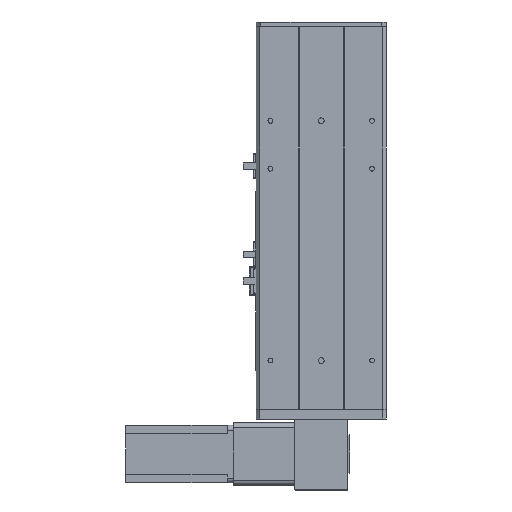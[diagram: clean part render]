
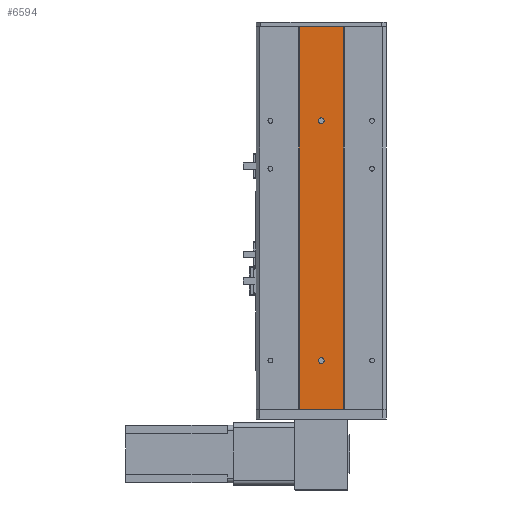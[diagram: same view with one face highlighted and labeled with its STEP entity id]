
A CAD part, front view. The second image highlights one B-rep face of the part: STEP entity #6594.
In plain terms, the highlighted planar face has unit normal (0, -1, 0).
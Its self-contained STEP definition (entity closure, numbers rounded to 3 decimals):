
#539 = CIRCLE ( 'NONE', #9550, 3. ) ;
#773 = DIRECTION ( 'NONE',  ( 0., 1., 0. ) ) ;
#1280 = CARTESIAN_POINT ( 'NONE',  ( 68., -8.6, -95. ) ) ;
#1430 = DIRECTION ( 'NONE',  ( -1., 0., 0. ) ) ;
#2281 = CARTESIAN_POINT ( 'NONE',  ( 68., -8.6, -345. ) ) ;
#2908 = ORIENTED_EDGE ( 'NONE', *, *, #23203, .F. ) ;
#3518 = FACE_BOUND ( 'NONE', #24269, .T. ) ;
#3676 = VERTEX_POINT ( 'NONE', #20282 ) ;
#4660 = CARTESIAN_POINT ( 'NONE',  ( 45., -8.6, -399. ) ) ;
#4671 = LINE ( 'NONE', #15717, #14445 ) ;
#4829 = CARTESIAN_POINT ( 'NONE',  ( 45., -8.6, -399. ) ) ;
#5067 = EDGE_CURVE ( 'NONE', #22677, #19562, #13942, .T. ) ;
#5391 = CARTESIAN_POINT ( 'NONE',  ( 68., -8.6, -98. ) ) ;
#5930 = CARTESIAN_POINT ( 'NONE',  ( 68., -8.6, -351. ) ) ;
#6160 = CARTESIAN_POINT ( 'NONE',  ( 91., -8.6, -399. ) ) ;
#6594 = ADVANCED_FACE ( 'NONE', ( #3518, #23638, #19053 ), #10570, .F. ) ;
#6938 = CARTESIAN_POINT ( 'NONE',  ( 45., -8.6, 0. ) ) ;
#7352 = DIRECTION ( 'NONE',  ( -1., 0., 0. ) ) ;
#7591 = EDGE_CURVE ( 'NONE', #10004, #18188, #24202, .T. ) ;
#7992 = EDGE_CURVE ( 'NONE', #23892, #23147, #4671, .T. ) ;
#8029 = VECTOR ( 'NONE', #8888, 1000. ) ;
#8576 = DIRECTION ( 'NONE',  ( 0., 1., 0. ) ) ;
#8685 = CARTESIAN_POINT ( 'NONE',  ( 45., -8.6, -399. ) ) ;
#8888 = DIRECTION ( 'NONE',  ( -1., 0., 0. ) ) ;
#9356 = VERTEX_POINT ( 'NONE', #21632 ) ;
#9550 = AXIS2_PLACEMENT_3D ( 'NONE', #24789, #13113, #1430 ) ;
#10004 = VERTEX_POINT ( 'NONE', #2281 ) ;
#10570 = PLANE ( 'NONE',  #15623 ) ;
#11076 = CARTESIAN_POINT ( 'NONE',  ( 68., -8.6, -101. ) ) ;
#11261 = ORIENTED_EDGE ( 'NONE', *, *, #22283, .T. ) ;
#11664 = EDGE_CURVE ( 'NONE', #19562, #22677, #539, .T. ) ;
#12440 = CARTESIAN_POINT ( 'NONE',  ( 68., -8.6, -348. ) ) ;
#12600 = DIRECTION ( 'NONE',  ( -1., 0., 0. ) ) ;
#12720 = ORIENTED_EDGE ( 'NONE', *, *, #5067, .T. ) ;
#13068 = CARTESIAN_POINT ( 'NONE',  ( 91., -8.6, -399. ) ) ;
#13113 = DIRECTION ( 'NONE',  ( 0., 1., 0. ) ) ;
#13228 = LINE ( 'NONE', #6938, #8029 ) ;
#13232 = EDGE_LOOP ( 'NONE', ( #22120, #2908, #17315, #11261 ) ) ;
#13942 = CIRCLE ( 'NONE', #21582, 3. ) ;
#14428 = DIRECTION ( 'NONE',  ( -1., 0., 0. ) ) ;
#14445 = VECTOR ( 'NONE', #19519, 1000. ) ;
#14601 = EDGE_LOOP ( 'NONE', ( #12720, #20075 ) ) ;
#14905 = VECTOR ( 'NONE', #21702, 1000. ) ;
#15623 = AXIS2_PLACEMENT_3D ( 'NONE', #8685, #24276, #12600 ) ;
#15717 = CARTESIAN_POINT ( 'NONE',  ( 45., -8.6, -399. ) ) ;
#16050 = VECTOR ( 'NONE', #24331, 1000. ) ;
#16553 = ORIENTED_EDGE ( 'NONE', *, *, #19363, .T. ) ;
#17315 = ORIENTED_EDGE ( 'NONE', *, *, #7992, .F. ) ;
#18188 = VERTEX_POINT ( 'NONE', #5930 ) ;
#18507 = EDGE_CURVE ( 'NONE', #3676, #9356, #13228, .T. ) ;
#18972 = DIRECTION ( 'NONE',  ( 0., 1., 0. ) ) ;
#19053 = FACE_OUTER_BOUND ( 'NONE', #13232, .T. ) ;
#19363 = EDGE_CURVE ( 'NONE', #18188, #10004, #24755, .T. ) ;
#19519 = DIRECTION ( 'NONE',  ( -1., 0., 0. ) ) ;
#19562 = VERTEX_POINT ( 'NONE', #1280 ) ;
#20075 = ORIENTED_EDGE ( 'NONE', *, *, #11664, .T. ) ;
#20209 = CARTESIAN_POINT ( 'NONE',  ( 68., -8.6, -348. ) ) ;
#20282 = CARTESIAN_POINT ( 'NONE',  ( 91., -8.6, 0. ) ) ;
#20352 = ORIENTED_EDGE ( 'NONE', *, *, #7591, .T. ) ;
#20633 = LINE ( 'NONE', #6160, #14905 ) ;
#21222 = LINE ( 'NONE', #4829, #16050 ) ;
#21491 = AXIS2_PLACEMENT_3D ( 'NONE', #20209, #8576, #22188 ) ;
#21497 = AXIS2_PLACEMENT_3D ( 'NONE', #12440, #773, #14428 ) ;
#21582 = AXIS2_PLACEMENT_3D ( 'NONE', #5391, #18972, #7352 ) ;
#21632 = CARTESIAN_POINT ( 'NONE',  ( 45., -8.6, 0. ) ) ;
#21702 = DIRECTION ( 'NONE',  ( 0., 0., 1. ) ) ;
#22120 = ORIENTED_EDGE ( 'NONE', *, *, #18507, .T. ) ;
#22188 = DIRECTION ( 'NONE',  ( -1., 0., 0. ) ) ;
#22283 = EDGE_CURVE ( 'NONE', #23892, #3676, #20633, .T. ) ;
#22677 = VERTEX_POINT ( 'NONE', #11076 ) ;
#23147 = VERTEX_POINT ( 'NONE', #4660 ) ;
#23203 = EDGE_CURVE ( 'NONE', #23147, #9356, #21222, .T. ) ;
#23638 = FACE_BOUND ( 'NONE', #14601, .T. ) ;
#23892 = VERTEX_POINT ( 'NONE', #13068 ) ;
#24202 = CIRCLE ( 'NONE', #21491, 3. ) ;
#24269 = EDGE_LOOP ( 'NONE', ( #16553, #20352 ) ) ;
#24276 = DIRECTION ( 'NONE',  ( 0., 1., 0. ) ) ;
#24331 = DIRECTION ( 'NONE',  ( 0., 0., 1. ) ) ;
#24755 = CIRCLE ( 'NONE', #21497, 3. ) ;
#24789 = CARTESIAN_POINT ( 'NONE',  ( 68., -8.6, -98. ) ) ;
